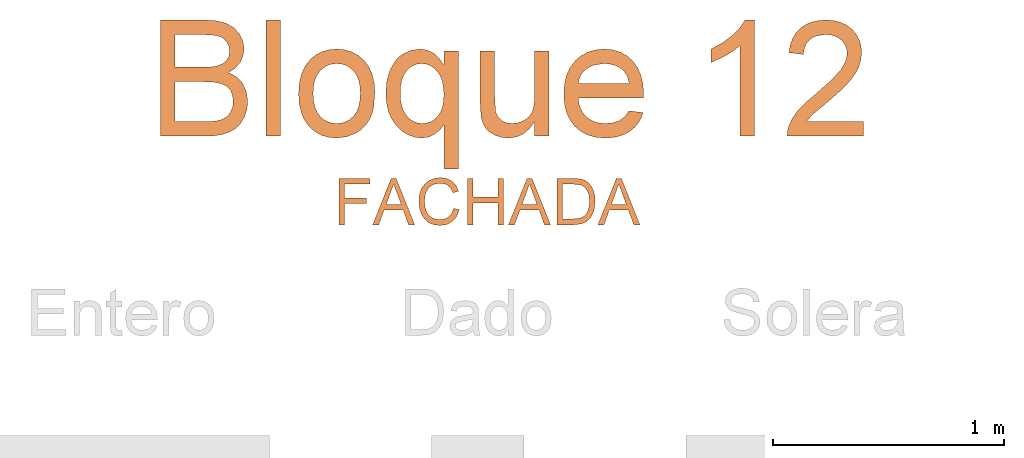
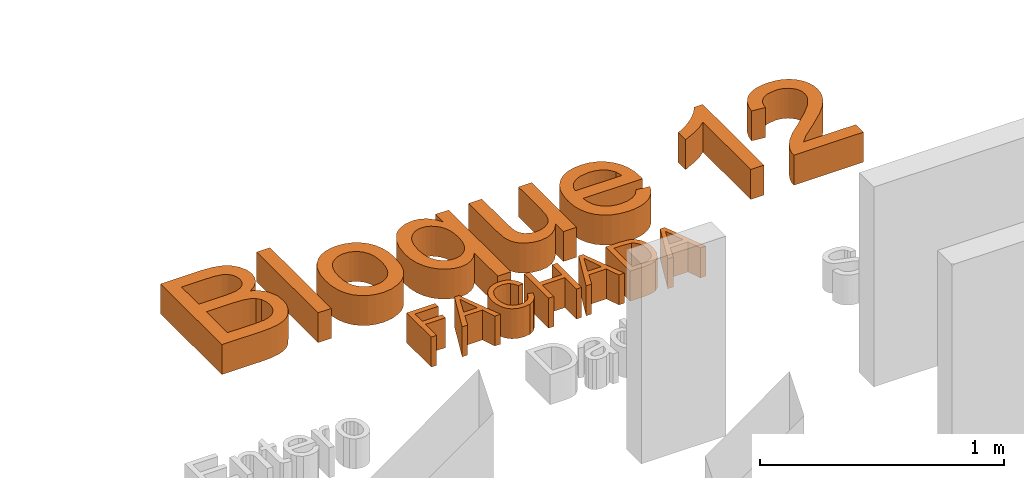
# One storey, part 13 of 19: 2 proxies.
"""IFC2X3 building model written with IfcOpenShell, lengths in metres."""

from ifc_helpers import new_model, entity, si_unit, converted_unit, derived_unit, direction, frame, frame_2d, origin, place, context, subcontext, project, spatial, polyline, rectangle, outline, extrude, type_object, element, save


model = new_model("IFC2X3")

# Units and contexts
model_context = context("Model", 3, precision=1e-05, world=origin(), true_north=direction((6.12303176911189e-17, 1.0)))
body_context = subcontext(model_context, "Body", "Model", "MODEL_VIEW")
ifc_project = project(units=[si_unit("LENGTHUNIT", "METRE"), si_unit("AREAUNIT", "SQUARE_METRE"), si_unit("VOLUMEUNIT", "CUBIC_METRE"), converted_unit("PLANEANGLEUNIT", "DEGREE", entity("IfcRatioMeasure", 0.0174532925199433), si_unit("PLANEANGLEUNIT", "RADIAN"), dimensions=[0, 0, 0, 0, 0, 0, 0]), si_unit("MASSUNIT", "GRAM", prefix="KILO"), derived_unit("MASSDENSITYUNIT", [(si_unit("MASSUNIT", "GRAM", prefix="KILO"), 1), (si_unit("LENGTHUNIT", "METRE"), -3)]), derived_unit("MOMENTOFINERTIAUNIT", [(si_unit("LENGTHUNIT", "METRE"), 4)]), si_unit("TIMEUNIT", "SECOND"), si_unit("FREQUENCYUNIT", "HERTZ"), si_unit("THERMODYNAMICTEMPERATUREUNIT", "DEGREE_CELSIUS"), derived_unit("THERMALTRANSMITTANCEUNIT", [(si_unit("MASSUNIT", "GRAM", prefix="KILO"), 1), (si_unit("THERMODYNAMICTEMPERATUREUNIT", "KELVIN"), -1), (si_unit("TIMEUNIT", "SECOND"), -3)]), derived_unit("VOLUMETRICFLOWRATEUNIT", [(si_unit("LENGTHUNIT", "METRE"), 3), (si_unit("TIMEUNIT", "SECOND"), -1)]), si_unit("ELECTRICCURRENTUNIT", "AMPERE"), si_unit("ELECTRICVOLTAGEUNIT", "VOLT"), si_unit("POWERUNIT", "WATT"), si_unit("FORCEUNIT", "NEWTON", prefix="KILO"), si_unit("ILLUMINANCEUNIT", "LUX"), si_unit("LUMINOUSFLUXUNIT", "LUMEN"), si_unit("LUMINOUSINTENSITYUNIT", "CANDELA"), derived_unit("USERDEFINED", [(si_unit("MASSUNIT", "GRAM", prefix="KILO"), -1), (si_unit("LENGTHUNIT", "METRE"), -2), (si_unit("TIMEUNIT", "SECOND"), 3), (si_unit("LUMINOUSFLUXUNIT", "LUMEN"), 1)]), derived_unit("LINEARVELOCITYUNIT", [(si_unit("LENGTHUNIT", "METRE"), 1), (si_unit("TIMEUNIT", "SECOND"), -1)]), si_unit("PRESSUREUNIT", "PASCAL"), derived_unit("USERDEFINED", [(si_unit("LENGTHUNIT", "METRE"), -2), (si_unit("MASSUNIT", "GRAM", prefix="KILO"), 1), (si_unit("TIMEUNIT", "SECOND"), -2)]), derived_unit("LINEARFORCEUNIT", [(si_unit("MASSUNIT", "GRAM", prefix="KILO"), 1), (si_unit("LENGTHUNIT", "METRE"), 1), (si_unit("TIMEUNIT", "SECOND"), -2), (si_unit("LENGTHUNIT", "METRE"), -1)]), derived_unit("PLANARFORCEUNIT", [(si_unit("MASSUNIT", "GRAM", prefix="KILO"), 1), (si_unit("LENGTHUNIT", "METRE"), 1), (si_unit("TIMEUNIT", "SECOND"), -2), (si_unit("LENGTHUNIT", "METRE"), -2)])], contexts=[model_context])

# Site, building, storey
site_placement = place(None, origin())
site = spatial("IfcSite", under=ifc_project, at=site_placement, Name="Default", CompositionType="ELEMENT")
building_placement = place(site_placement, origin())
building = spatial("IfcBuilding", under=site, at=building_placement, CompositionType="ELEMENT")
storey_placement = place(building_placement, origin())
storey = spatial("IfcBuildingStorey", under=building, at=storey_placement, Name="Nivel 1", CompositionType="ELEMENT", Elevation=0.0)

# Proxies
building_element_proxy_type_1 = type_object("IfcBuildingElementProxyType", Name="Texto de modelo:Título", PredefinedType="NOTDEFINED")
proxy_1_placement = place(storey_placement, origin())
element("IfcBuildingElementProxy", 1, at=proxy_1_placement, inside=storey, type_object=building_element_proxy_type_1, Name="Texto de modelo:Título", ObjectType="Texto de modelo:Título", context=body_context, shape_type="SweptSolid", body=[
    extrude(outline(polyline([(-0.292681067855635, -0.24358102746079), (-0.102486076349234, -0.24358102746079), (-0.0585088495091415, -0.241419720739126), (-0.0219812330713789, -0.234935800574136), (0.00807779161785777, -0.224236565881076), (0.0326492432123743, -0.209429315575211), (0.0527141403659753, -0.188981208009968), (0.0692535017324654, -0.161359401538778), (0.0803359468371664, -0.12887848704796), (0.0840300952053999, -0.0938530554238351), (0.0786191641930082, -0.0518225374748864), (0.0623863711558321, -0.0157394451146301), (0.0504033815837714, -0.000395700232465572), (0.0360981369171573, 0.01252615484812), (0.0194706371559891, 0.0230261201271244), (0.000520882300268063, 0.0311041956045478), (0.0303039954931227, 0.0506785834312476), (0.0514725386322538, 0.0755566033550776), (0.0641184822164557, 0.10399081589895), (0.0683337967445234, 0.134233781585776), (0.0633214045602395, 0.167097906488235), (0.0482842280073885, 0.198490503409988), (0.0244025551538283, 0.225177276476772), (-0.007143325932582, 0.243923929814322), (-0.0483001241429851, 0.255006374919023), (-0.101014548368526, 0.258700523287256), (-0.292681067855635, 0.258700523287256), (-0.292681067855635, -0.24358102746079)]), holes=[polyline([(-0.22989587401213, 0.0546486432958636), (-0.22989587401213, 0.195915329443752), (-0.123945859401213, 0.195915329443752), (-0.0752014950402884, 0.194275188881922), (-0.0432570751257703, 0.189354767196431), (-0.0224410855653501, 0.18001976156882), (-0.00708201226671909, 0.165135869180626), (0.00239094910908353, 0.146067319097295), (0.00554860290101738, 0.124178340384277), (0.0021610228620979, 0.101630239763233), (-0.0080017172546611, 0.083282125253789), (-0.0248476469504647, 0.0693485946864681), (-0.0482847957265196, 0.0600442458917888), (-0.0751401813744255, 0.0559975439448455), (-0.115239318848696, 0.0546486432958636), (-0.22989587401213, 0.0546486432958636)]), polyline([(-0.22989587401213, -0.180795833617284), (-0.22989587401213, -0.00813655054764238), (-0.107268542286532, -0.00813655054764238), (-0.0625555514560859, -0.0102365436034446), (-0.0297067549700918, -0.0165365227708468), (-0.006514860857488, -0.0280175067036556), (0.00922742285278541, -0.0456605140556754), (0.0182405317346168, -0.0682239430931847), (0.0212449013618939, -0.0944661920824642), (0.018685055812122, -0.117060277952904), (0.0110055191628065, -0.136772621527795), (-0.000644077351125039, -0.152882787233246), (-0.0151141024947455, -0.164670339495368), (-0.0329103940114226, -0.172901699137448), (-0.054538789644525, -0.178343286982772), (-0.101137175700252, -0.180795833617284), (-0.22989587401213, -0.180795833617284)])]), frame((-4.42633371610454, 11.1571087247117, 0.0)), (0.0, 0.0, 1.0), 0.15),
    extrude(rectangle(XDim=0.0627851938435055, YDim=0.502281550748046, at=frame_2d((-2.70616862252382e-16, -1.08246744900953e-15), x_axis=(1.0, 0.0))), frame((-4.232429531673, 11.1646684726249, 0.0)), (0.0, 0.0, 1.0), 0.15),
    extrude(outline(polyline([(-0.0131957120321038, -0.170548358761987), (0.0307665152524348, -0.170548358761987), (0.0696520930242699, -0.164512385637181), (0.103461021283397, -0.152440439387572), (0.132193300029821, -0.134332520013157), (0.155411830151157, -0.111243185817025), (0.172679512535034, -0.0842269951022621), (0.183996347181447, -0.0532839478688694), (0.189362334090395, -0.018414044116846), (0.186618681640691, 0.0261717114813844), (0.172415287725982, 0.0679068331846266), (0.161237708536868, 0.0869767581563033), (0.147638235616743, 0.103876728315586), (0.131616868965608, 0.118606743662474), (0.11317360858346, 0.131166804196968), (0.0915479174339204, 0.141494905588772), (0.065979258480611, 0.149529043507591), (0.00301303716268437, 0.158715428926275), (-0.0385534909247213, 0.158529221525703), (-0.0757586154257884, 0.15229201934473), (-0.108602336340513, 0.140003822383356), (-0.137084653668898, 0.121664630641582), (-0.160392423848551, 0.0984428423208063), (-0.177712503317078, 0.0715068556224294), (-0.18904489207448, 0.0408566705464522), (-0.194389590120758, 0.00649228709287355), (-0.193874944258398, -0.024984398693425), (-0.188105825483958, -0.05431368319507), (-0.177082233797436, -0.0814955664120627), (-0.160804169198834, -0.106530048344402), (-0.134450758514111, -0.132057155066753), (-0.101064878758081, -0.1512359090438), (-0.060646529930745, -0.164066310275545), (-0.0131957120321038, -0.170548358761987)]), holes=[polyline([(-0.00925174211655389, -0.107887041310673), (-0.0395162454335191, -0.104102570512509), (-0.0654537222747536, -0.0969584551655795), (-0.0870641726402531, -0.0864546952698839), (-0.104347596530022, -0.0725912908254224), (-0.117399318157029, -0.0562452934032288), (-0.126314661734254, -0.0382937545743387), (-0.131093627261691, -0.0187366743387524), (-0.131736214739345, 0.00242594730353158), (-0.128372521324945, 0.0230712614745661), (-0.121092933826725, 0.0416882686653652), (-0.109897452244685, 0.0582769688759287), (-0.0947860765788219, 0.0728373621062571), (-0.0759345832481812, 0.0844361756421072), (-0.053518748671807, 0.0921401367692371), (-0.0275385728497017, 0.0959492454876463), (0.00200594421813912, 0.0958635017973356), (0.0329855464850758, 0.0920326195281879), (0.0594775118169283, 0.084852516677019), (0.0814818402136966, 0.0743231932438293), (0.0989985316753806, 0.0604446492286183), (0.112185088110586, 0.0441052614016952), (0.121199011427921, 0.0261934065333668), (0.126040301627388, 0.00670908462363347), (0.126708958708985, -0.0143477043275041), (0.12332863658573, -0.0352492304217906), (0.116038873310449, -0.054023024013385), (0.104839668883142, -0.0706690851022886), (0.089731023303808, -0.0851874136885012), (0.070747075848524, -0.0966969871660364), (0.0479219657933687, -0.10431678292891), (0.0212556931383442, -0.108046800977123), (-0.00925174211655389, -0.107887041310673)])]), frame((-3.95151052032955, 11.0958369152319, 0.0), z_axis=(0.0, 0.0, 1.0), x_axis=(0.0647659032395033, -0.997900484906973, 0.0)), (0.0, 0.0, 1.0), 0.15),
    extrude(outline(polyline([(0.11312234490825, -0.311998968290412), (0.175907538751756, -0.311998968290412), (0.175907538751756, 0.198130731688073), (0.11312234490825, 0.198130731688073), (0.11312234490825, 0.135590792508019), (0.0926742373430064, 0.16638558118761), (0.0687312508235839, 0.188381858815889), (0.0412933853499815, 0.201579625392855), (0.0103606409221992, 0.205978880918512), (-0.0296465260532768, 0.200307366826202), (-0.0662814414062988, 0.183292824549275), (-0.0827211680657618, 0.170616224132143), (-0.0970915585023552, 0.155272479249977), (-0.119624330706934, 0.116583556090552), (-0.133419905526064, 0.0697092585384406), (-0.138018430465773, 0.0171327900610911), (-0.135121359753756, -0.0259975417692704), (-0.126430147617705, -0.0642764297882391), (-0.111944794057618, -0.097703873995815), (-0.0916652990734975, -0.126279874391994), (-0.0673774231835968, -0.149161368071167), (-0.0408669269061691, -0.165505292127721), (-0.012133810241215, -0.175311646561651), (0.0188219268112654, -0.178580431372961), (0.0468422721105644, -0.174441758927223), (0.0732684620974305, -0.162025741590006), (0.0960464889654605, -0.143355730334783), (0.11312234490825, -0.120455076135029), (0.11312234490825, -0.311998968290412)]), holes=[polyline([(-0.0752332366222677, 0.0136992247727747), (-0.0735586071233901, 0.0447967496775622), (-0.0685347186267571, 0.0715026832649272), (-0.0601615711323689, 0.0938170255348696), (-0.0484391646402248, 0.111739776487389), (-0.0343101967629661, 0.125500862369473), (-0.0187173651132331, 0.135330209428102), (-0.00166066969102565, 0.14122781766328), (0.0168598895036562, 0.143193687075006), (0.035610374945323, 0.141082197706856), (0.0531115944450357, 0.134747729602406), (0.0693635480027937, 0.124190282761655), (0.0843662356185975, 0.109409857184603), (0.0969470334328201, 0.0904447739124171), (0.105933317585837, 0.067333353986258), (0.111325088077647, 0.040075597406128), (0.11312234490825, 0.0086715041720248), (0.111417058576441, -0.0207743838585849), (0.106301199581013, -0.04620422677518), (0.0977747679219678, -0.0676180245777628), (0.0858377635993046, -0.0850157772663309), (0.0715401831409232, -0.0984817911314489), (0.0559320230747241, -0.108100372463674), (0.0390132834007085, -0.11387152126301), (0.0207839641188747, -0.115795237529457), (0.0017422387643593, -0.113771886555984), (-0.0158969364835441, -0.107701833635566), (-0.0321335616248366, -0.0975850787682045), (-0.0469676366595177, -0.0834216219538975), (-0.0593338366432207, -0.0652114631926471), (-0.0681668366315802, -0.0429546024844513), (-0.0734666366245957, -0.01665103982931), (-0.0752332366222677, 0.0136992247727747)])]), frame((-3.60782584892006, 11.0842599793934, 0.0)), (0.0, 0.0, 1.0), 0.15),
    extrude(outline(polyline([(0.0993741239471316, -0.102697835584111), (0.162159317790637, -0.102697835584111), (0.162159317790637, 0.266165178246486), (0.0993741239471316, 0.266165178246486), (0.0993741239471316, 0.0742534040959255), (0.0968296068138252, 0.0338323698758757), (0.0891960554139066, 0.00429451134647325), (0.0754464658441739, -0.0172725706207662), (0.0545538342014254, -0.0337812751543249), (0.0292159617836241, -0.0442659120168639), (0.0021306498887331, -0.0477607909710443), (-0.0234831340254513, -0.0443425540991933), (-0.0446516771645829, -0.0340878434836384), (-0.0603326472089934, -0.0178550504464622), (-0.0694837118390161, 0.00349743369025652), (-0.0732851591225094, 0.0675089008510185), (-0.0732851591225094, 0.266165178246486), (-0.136070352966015, 0.266165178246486), (-0.136070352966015, 0.0379557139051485), (-0.132391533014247, -0.0204148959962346), (-0.125018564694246, -0.0456454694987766), (-0.113690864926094, -0.0666454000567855), (-0.0968602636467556, -0.0839358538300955), (-0.0729785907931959, -0.0980379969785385), (-0.0445137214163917, -0.107418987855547), (-0.0139335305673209, -0.110545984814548), (0.0200035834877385, -0.106093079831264), (0.050200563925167, -0.0927343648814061), (0.0766574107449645, -0.0704698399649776), (0.0993741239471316, -0.039299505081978), (0.0993741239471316, -0.102697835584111)])), frame((-3.20167016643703, 11.016225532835, 0.0)), (0.0, 0.0, 1.0), 0.15),
    extrude(outline(polyline([(-0.0285819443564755, -0.112502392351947), (-0.0578029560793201, -0.167249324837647), (-0.0322328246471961, -0.173818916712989), (-0.00713898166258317, -0.176000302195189), (0.017478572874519, -0.173793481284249), (0.0416198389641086, -0.167198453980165), (0.0648944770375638, -0.156182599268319), (0.0869121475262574, -0.140713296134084), (0.10767285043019, -0.120790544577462), (0.127176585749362, -0.0964143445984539), (0.147184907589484, -0.0628437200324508), (0.159666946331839, -0.0291392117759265), (0.164622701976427, 0.00469918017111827), (0.162052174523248, 0.0386714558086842), (0.151934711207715, 0.0717021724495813), (0.134249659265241, 0.102715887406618), (0.108997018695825, 0.131712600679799), (0.076176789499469, 0.158692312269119), (0.038680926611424, 0.181565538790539), (0.0019016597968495, 0.196468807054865), (-0.0341610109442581, 0.2034021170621), (-0.0695070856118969, 0.202365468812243), (-0.102928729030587, 0.194014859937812), (-0.133218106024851, 0.179006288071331), (-0.160375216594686, 0.157339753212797), (-0.184400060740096, 0.129015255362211), (-0.202515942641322, 0.0979595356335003), (-0.21343631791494, 0.0659991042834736), (-0.217161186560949, 0.0331339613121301), (-0.213690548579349, -0.000635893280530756), (-0.202780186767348, -0.0339331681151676), (-0.184185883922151, -0.0653805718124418), (-0.157907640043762, -0.09497810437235), (-0.123945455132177, -0.122725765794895), (-0.109931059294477, -0.132218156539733), (0.0533469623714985, 0.0979071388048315), (0.0716760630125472, 0.0804432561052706), (0.0853873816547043, 0.0618484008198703), (0.0944809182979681, 0.0421225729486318), (0.0989566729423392, 0.0212657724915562), (0.0991008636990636, 5.22501907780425e-05), (0.0951997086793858, -0.0207437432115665), (0.0872532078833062, -0.0411222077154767), (0.0752613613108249, -0.0610831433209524), (0.053249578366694, -0.0864379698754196), (0.0289384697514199, -0.103695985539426), (0.00182798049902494, -0.112502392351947), (-0.0285819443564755, -0.112502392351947)]), holes=[polyline([(0.00214133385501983, 0.134238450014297), (-0.125018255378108, -0.0449812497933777), (-0.147157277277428, -0.0188609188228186), (-0.15687663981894, 0.00844625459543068), (-0.157470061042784, 0.029861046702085), (-0.153697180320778, 0.0510722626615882), (-0.145557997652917, 0.0720799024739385), (-0.133052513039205, 0.0928839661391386), (-0.103774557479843, 0.124003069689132), (-0.0871344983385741, 0.134773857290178), (-0.0691603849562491, 0.142352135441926), (-0.0507231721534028, 0.146331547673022), (-0.0326938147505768, 0.146305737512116), (-0.0150723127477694, 0.142274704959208), (0.00214133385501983, 0.134238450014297)])]), frame((-2.80322069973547, 11.0651919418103, 0.0), z_axis=(0.0, 0.0, -1.0), x_axis=(-0.578660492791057, -0.815568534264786, 0.0)), (0.0, 0.0, -1.0), 0.15),
    extrude(outline(polyline([(-0.343143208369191, -0.0876683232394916), (0.159138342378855, -0.0876683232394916), (0.159138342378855, -0.0472013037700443), (0.126243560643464, -0.0250210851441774), (0.092306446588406, 0.00865544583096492), (0.0603926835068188, 0.05137574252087), (0.0335679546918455, 0.100687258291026), (-0.0257836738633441, 0.100687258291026), (0.00591549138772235, 0.0345911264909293), (0.0270840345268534, 0.00132846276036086), (0.0482832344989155, -0.0248831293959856), (-0.343143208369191, -0.0248831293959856), (-0.343143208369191, -0.0876683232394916)])), frame((-2.24033830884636, 11.2566709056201, 0.0), z_axis=(0.0, 0.0, 1.0), x_axis=(0.0, 1.0, 0.0)), (0.0, 0.0, 1.0), 0.15),
    extrude(outline(polyline([(-0.159344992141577, -0.262915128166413), (-0.159344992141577, -0.32570032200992), (0.170277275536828, -0.32570032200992), (0.168897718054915, -0.30359674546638), (0.16353277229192, -0.282412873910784), (0.148035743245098, -0.248583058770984), (0.125334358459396, -0.215764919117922), (0.0925162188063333, -0.181413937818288), (0.0466689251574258, -0.14298559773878), (-0.0210673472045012, -0.0828062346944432), (-0.0616723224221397, -0.0383844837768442), (-0.0819518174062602, -0.00233204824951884), (-0.0870216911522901, 0.0153262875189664), (-0.0887116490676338, 0.0327393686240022), (-0.0871136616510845, 0.0491216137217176), (-0.0823196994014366, 0.0641779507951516), (-0.0743297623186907, 0.0779083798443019), (-0.0631438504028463, 0.0903129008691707), (-0.0493827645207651, 0.100586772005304), (-0.0336673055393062, 0.107925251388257), (-0.0159974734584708, 0.11232833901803), (0.00362673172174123, 0.113796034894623), (0.0427908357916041, 0.108063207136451), (0.0590964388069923, 0.100897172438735), (0.0732177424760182, 0.0908647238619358), (0.0846412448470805, 0.0783030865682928), (0.0928534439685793, 0.063549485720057), (0.0978543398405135, 0.0466039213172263), (0.0996439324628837, 0.0274663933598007), (0.16242912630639, 0.03531454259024), (0.157029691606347, 0.0677264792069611), (0.14720800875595, 0.0960457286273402), (0.132964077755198, 0.12027229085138), (0.114297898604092, 0.140406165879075), (0.0916386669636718, 0.15623275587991), (0.0654155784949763, 0.167537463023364), (0.0356286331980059, 0.174320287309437), (0.0022778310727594, 0.176581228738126), (-0.0313718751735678, 0.174067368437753), (-0.0613197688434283, 0.166525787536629), (-0.0875658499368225, 0.153956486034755), (-0.110110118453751, 0.136359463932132), (-0.128216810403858, 0.115037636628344), (-0.141150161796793, 0.0912939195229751), (-0.148910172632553, 0.065128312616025), (-0.15149684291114, 0.036540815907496), (-0.148707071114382, 0.00651244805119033), (-0.14033775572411, -0.0229947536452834), (-0.125484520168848, -0.0530077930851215), (-0.103242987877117, -0.0845536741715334), (-0.0677883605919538, -0.122215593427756), (-0.0132958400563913, -0.17057674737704), (0.0589316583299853, -0.230970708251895), (0.0872585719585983, -0.262915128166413), (-0.159344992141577, -0.262915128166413)])), frame((-1.84112602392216, 11.2392280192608, 0.0), z_axis=(0.0, 0.0, -1.0), x_axis=(-1.0, 0.0, 0.0)), (0.0, 0.0, -1.0), 0.15),
])
building_element_proxy_type_2 = type_object("IfcBuildingElementProxyType", Name="Texto de modelo:Subtítulo", PredefinedType="NOTDEFINED")
proxy_2_placement = place(storey_placement, origin())
element("IfcBuildingElementProxy", 2, at=proxy_2_placement, inside=storey, type_object=building_element_proxy_type_2, Name="Texto de modelo:Subtítulo", ObjectType="Texto de modelo:Subtítulo", context=body_context, shape_type="SweptSolid", body=[
    extrude(outline(polyline([(-0.0609016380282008, -0.11678046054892), (-0.0357875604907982, -0.11678046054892), (-0.0357875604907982, -0.0257419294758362), (0.0583902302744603, -0.0257419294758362), (0.0583902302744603, -0.000627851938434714), (-0.0357875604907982, -0.000627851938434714), (-0.0357875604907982, 0.0590180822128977), (0.0740865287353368, 0.0590180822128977), (0.0740865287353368, 0.0841321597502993), (-0.0609016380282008, 0.0841321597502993), (-0.0609016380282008, -0.11678046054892)])), frame((-3.8878289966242, 10.6477158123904, 0.0)), (0.0, 0.0, 1.0), 0.15),
    extrude(outline(polyline([(-0.0908607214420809, -0.0659244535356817), (-0.0643732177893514, -0.0659244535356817), (-0.0414173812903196, -0.00313925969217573), (0.0413805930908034, -0.00313925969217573), (0.0643364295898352, -0.0659244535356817), (0.0908729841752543, -0.0659244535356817), (0.0107237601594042, 0.134988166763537), (-0.0106624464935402, 0.134988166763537), (-0.0908607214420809, -0.0659244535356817)]), holes=[polyline([(-0.032195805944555, 0.0219748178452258), (-0.0125263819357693, 0.0756855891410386), (-1.83940997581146e-05, 0.109874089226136), (0.0140592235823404, 0.0713691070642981), (0.0322080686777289, 0.0219748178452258), (-0.032195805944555, 0.0219748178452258)])]), frame((-3.7116981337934, 10.5968598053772, 0.0)), (0.0, 0.0, 1.0), 0.15),
    extrude(outline(polyline([(0.00355232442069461, -0.0754517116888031), (0.000735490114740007, -0.101233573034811), (0.032207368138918, -0.100733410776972), (0.0586340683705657, -0.0912753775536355), (0.0793092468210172, -0.0735495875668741), (0.0935265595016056, -0.0482461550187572), (0.100733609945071, -0.0198295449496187), (0.0996500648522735, 0.00530853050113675), (0.0908072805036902, 0.0276031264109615), (0.0747366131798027, 0.0474892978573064), (0.0532622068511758, 0.0640355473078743), (0.0282082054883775, 0.0763103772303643), (-0.000248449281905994, 0.0838799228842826), (-0.0270668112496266, 0.0844731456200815), (-0.0513308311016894, 0.0782421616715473), (-0.0721244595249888, 0.0653390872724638), (-0.0887450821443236, 0.0469994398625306), (-0.100490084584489, 0.0244587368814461), (-0.106560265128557, -0.00268319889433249), (-0.103625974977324, -0.0281270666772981), (-0.0921127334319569, -0.0509518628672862), (-0.0724460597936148, -0.0702365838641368), (-0.0579739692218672, -0.0488570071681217), (-0.0720305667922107, -0.0342408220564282), (-0.079580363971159, -0.0186741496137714), (-0.0809958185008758, -0.00185900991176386), (-0.0766493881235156, 0.0165025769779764), (-0.0665154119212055, 0.0357323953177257), (-0.052717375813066, 0.049462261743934), (-0.0361963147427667, 0.0575953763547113), (-0.0178932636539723, 0.0600349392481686), (0.000999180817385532, 0.0580310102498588), (0.0192884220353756, 0.0528336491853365), (0.0403234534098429, 0.042863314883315), (0.0570828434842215, 0.0304574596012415), (0.0687737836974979, 0.0156861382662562), (0.0746034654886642, -0.00138059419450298), (0.075131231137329, -0.0194006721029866), (0.0709164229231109, -0.0370320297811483), (0.0605954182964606, -0.0555423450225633), (0.045681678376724, -0.0685820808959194), (0.0265442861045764, -0.0754517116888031), (0.00355232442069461, -0.0754517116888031)])), frame((-3.52205700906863, 10.6323370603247, 0.0), z_axis=(0.0, 0.0, -1.0), x_axis=(-0.35334352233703, -0.935493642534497, 0.0)), (0.0, 0.0, -1.0), 0.15),
    extrude(outline(polyline([(-0.0784814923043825, -0.10254914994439), (-0.0533674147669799, -0.10254914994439), (-0.0533674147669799, -0.00837135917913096), (0.0533674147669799, -0.00837135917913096), (0.0533674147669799, -0.10254914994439), (0.0784814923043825, -0.10254914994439), (0.0784814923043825, 0.0983634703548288), (0.0533674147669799, 0.0983634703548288), (0.0533674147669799, 0.0167427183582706), (-0.0533674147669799, 0.0167427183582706), (-0.0533674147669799, 0.0983634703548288), (-0.0784814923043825, 0.0983634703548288), (-0.0784814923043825, -0.10254914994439)])), frame((-3.31460017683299, 10.6334845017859, 0.0)), (0.0, 0.0, 1.0), 0.15),
    extrude(outline(polyline([(-0.0908607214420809, -0.0659244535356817), (-0.0643732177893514, -0.0659244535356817), (-0.0414173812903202, -0.00313925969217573), (0.0413805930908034, -0.00313925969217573), (0.0643364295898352, -0.0659244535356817), (0.0908729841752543, -0.0659244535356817), (0.0107237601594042, 0.134988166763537), (-0.0106624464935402, 0.134988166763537), (-0.0908607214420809, -0.0659244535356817)]), holes=[polyline([(-0.032195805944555, 0.0219748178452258), (-0.0125263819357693, 0.0756855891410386), (-1.83940997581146e-05, 0.109874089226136), (0.0140592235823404, 0.0713691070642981), (0.0322080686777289, 0.0219748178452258), (-0.032195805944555, 0.0219748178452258)])]), frame((-3.12465657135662, 10.5968598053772, 0.0)), (0.0, 0.0, 1.0), 0.15),
    extrude(outline(polyline([(-0.112205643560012, -0.108781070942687), (-0.0395612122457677, -0.108781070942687), (-0.00726117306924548, -0.105347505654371), (0.0167492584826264, -0.0952675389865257), (0.0350943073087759, -0.0770451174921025), (0.0488285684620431, -0.0477862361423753), (0.0541751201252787, -0.00724564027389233), (0.0522008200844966, 0.0181382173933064), (0.0462779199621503, 0.0405299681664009), (0.0363818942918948, 0.0595617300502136), (0.0224882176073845, 0.074865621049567), (0.00897468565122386, 0.0836580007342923), (-0.00704044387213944, 0.0892375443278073), (-0.0428966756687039, 0.0921315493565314), (-0.112205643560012, 0.0921315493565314), (-0.112205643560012, -0.108781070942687)]), holes=[polyline([(-0.0870915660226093, -0.0836669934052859), (-0.0870915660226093, 0.0670174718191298), (-0.0433381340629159, 0.0670174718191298), (-0.00772715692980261, 0.06299529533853), (0.00646695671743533, 0.0546075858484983), (0.0183434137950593, 0.0407261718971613), (0.0263816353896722, 0.0205171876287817), (0.0290610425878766, -0.00685323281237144), (0.0276937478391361, -0.0275098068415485), (0.0235918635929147, -0.04484318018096), (0.0170374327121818, -0.0589146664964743), (0.00831249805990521, -0.0697855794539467), (-0.0103268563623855, -0.0800372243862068), (-0.0426514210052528, -0.0836669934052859), (-0.0870915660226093, -0.0836669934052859)])]), frame((-2.8947470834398, 10.6397164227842, 0.0)), (0.0, 0.0, 1.0), 0.15),
    extrude(outline(polyline([(-0.0908607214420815, -0.0659244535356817), (-0.064373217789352, -0.0659244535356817), (-0.0414173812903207, -0.00313925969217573), (0.0413805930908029, -0.00313925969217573), (0.0643364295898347, -0.0659244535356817), (0.0908729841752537, -0.0659244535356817), (0.0107237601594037, 0.134988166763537), (-0.0106624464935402, 0.134988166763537), (-0.0908607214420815, -0.0659244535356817)]), holes=[polyline([(-0.0321958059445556, 0.0219748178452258), (-0.0125263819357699, 0.0756855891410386), (-1.83940997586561e-05, 0.109874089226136), (0.0140592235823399, 0.0713691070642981), (0.0322080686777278, 0.0219748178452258), (-0.0321958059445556, 0.0219748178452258)])]), frame((-2.73852762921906, 10.5968598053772, 0.0)), (0.0, 0.0, 1.0), 0.15),
])

save(model, "model.ifc")
